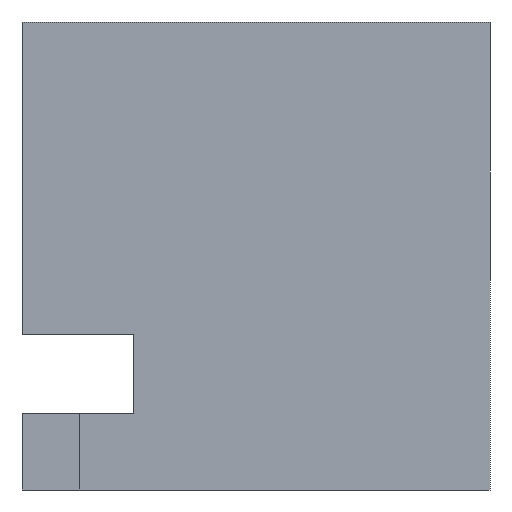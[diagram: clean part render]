
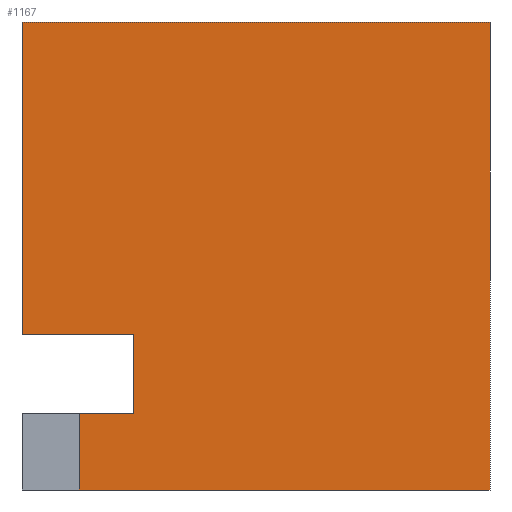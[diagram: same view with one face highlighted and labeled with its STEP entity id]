
A CAD part, front view. The second image highlights one B-rep face of the part: STEP entity #1167.
In plain terms, the highlighted planar face has unit normal (0, -1, 0).
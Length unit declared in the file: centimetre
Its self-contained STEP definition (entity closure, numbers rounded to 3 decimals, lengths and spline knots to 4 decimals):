
#2 = VECTOR ( 'NONE', #983, 100. ) ;
#5 = VECTOR ( 'NONE', #117, 100. ) ;
#73 = CARTESIAN_POINT ( 'NONE',  ( 238.0093, 0., 164.0177 ) ) ;
#98 = ORIENTED_EDGE ( 'NONE', *, *, #971, .T. ) ;
#117 = DIRECTION ( 'NONE',  ( 0., 0., -1. ) ) ;
#129 = ORIENTED_EDGE ( 'NONE', *, *, #932, .T. ) ;
#154 = DIRECTION ( 'NONE',  ( 0., 0., 1. ) ) ;
#166 = DIRECTION ( 'NONE',  ( 0., 0., -1. ) ) ;
#207 = LINE ( 'NONE', #573, #1066 ) ;
#245 = VERTEX_POINT ( 'NONE', #1159 ) ;
#273 = EDGE_CURVE ( 'NONE', #1172, #885, #728, .T. ) ;
#283 = DIRECTION ( 'NONE',  ( -1., 0., 0. ) ) ;
#329 = EDGE_CURVE ( 'NONE', #1081, #942, #553, .T. ) ;
#372 = CARTESIAN_POINT ( 'NONE',  ( 0., 0., 164.0177 ) ) ;
#379 = CARTESIAN_POINT ( 'NONE',  ( 0., 0., 1000. ) ) ;
#395 = CARTESIAN_POINT ( 'NONE',  ( 0., 0., 1000. ) ) ;
#401 = VERTEX_POINT ( 'NONE', #1193 ) ;
#413 = ORIENTED_EDGE ( 'NONE', *, *, #516, .T. ) ;
#452 = CARTESIAN_POINT ( 'NONE',  ( 121.9611, 0., 0. ) ) ;
#454 = DIRECTION ( 'NONE',  ( 1., 0., 0. ) ) ;
#455 = EDGE_CURVE ( 'NONE', #1081, #1050, #1031, .T. ) ;
#516 = EDGE_CURVE ( 'NONE', #1172, #936, #207, .T. ) ;
#519 = ORIENTED_EDGE ( 'NONE', *, *, #455, .T. ) ;
#539 = ORIENTED_EDGE ( 'NONE', *, *, #851, .F. ) ;
#553 = LINE ( 'NONE', #379, #747 ) ;
#558 = CARTESIAN_POINT ( 'NONE',  ( 0., 0., 1000. ) ) ;
#563 = DIRECTION ( 'NONE',  ( 1., 0., 0. ) ) ;
#573 = CARTESIAN_POINT ( 'NONE',  ( 0., 0., 0. ) ) ;
#602 = AXIS2_PLACEMENT_3D ( 'NONE', #670, #1033, #154 ) ;
#616 = CARTESIAN_POINT ( 'NONE',  ( 121.9611, 0., 0. ) ) ;
#649 = VECTOR ( 'NONE', #283, 100. ) ;
#652 = LINE ( 'NONE', #73, #708 ) ;
#670 = CARTESIAN_POINT ( 'NONE',  ( 0., 0., 1000. ) ) ;
#708 = VECTOR ( 'NONE', #909, 100. ) ;
#728 = LINE ( 'NONE', #616, #2 ) ;
#742 = CARTESIAN_POINT ( 'NONE',  ( 0., 0., 333.2478 ) ) ;
#746 = CARTESIAN_POINT ( 'NONE',  ( 1000., 0., 1000. ) ) ;
#747 = VECTOR ( 'NONE', #563, 100. ) ;
#817 = CARTESIAN_POINT ( 'NONE',  ( 121.9611, 0., 164.0177 ) ) ;
#844 = PLANE ( 'NONE',  #602 ) ;
#851 = EDGE_CURVE ( 'NONE', #942, #936, #925, .T. ) ;
#885 = VERTEX_POINT ( 'NONE', #817 ) ;
#907 = EDGE_CURVE ( 'NONE', #1050, #245, #922, .T. ) ;
#909 = DIRECTION ( 'NONE',  ( 0., 0., -1. ) ) ;
#922 = LINE ( 'NONE', #742, #1164 ) ;
#925 = LINE ( 'NONE', #1094, #1067 ) ;
#932 = EDGE_CURVE ( 'NONE', #401, #885, #1000, .T. ) ;
#936 = VERTEX_POINT ( 'NONE', #1190 ) ;
#942 = VERTEX_POINT ( 'NONE', #746 ) ;
#970 = ORIENTED_EDGE ( 'NONE', *, *, #273, .F. ) ;
#971 = EDGE_CURVE ( 'NONE', #245, #401, #652, .T. ) ;
#983 = DIRECTION ( 'NONE',  ( 0., 0., 1. ) ) ;
#1000 = LINE ( 'NONE', #372, #649 ) ;
#1021 = CARTESIAN_POINT ( 'NONE',  ( 0., 0., 333.2478 ) ) ;
#1028 = FACE_OUTER_BOUND ( 'NONE', #1070, .T. ) ;
#1031 = LINE ( 'NONE', #395, #5 ) ;
#1033 = DIRECTION ( 'NONE',  ( 0., 1., 0. ) ) ;
#1050 = VERTEX_POINT ( 'NONE', #1021 ) ;
#1066 = VECTOR ( 'NONE', #1148, 100. ) ;
#1067 = VECTOR ( 'NONE', #166, 100. ) ;
#1070 = EDGE_LOOP ( 'NONE', ( #129, #970, #413, #539, #1139, #519, #1153, #98 ) ) ;
#1081 = VERTEX_POINT ( 'NONE', #558 ) ;
#1094 = CARTESIAN_POINT ( 'NONE',  ( 1000., 0., 1000. ) ) ;
#1139 = ORIENTED_EDGE ( 'NONE', *, *, #329, .F. ) ;
#1148 = DIRECTION ( 'NONE',  ( 1., 0., 0. ) ) ;
#1153 = ORIENTED_EDGE ( 'NONE', *, *, #907, .T. ) ;
#1159 = CARTESIAN_POINT ( 'NONE',  ( 238.0093, 0., 333.2478 ) ) ;
#1164 = VECTOR ( 'NONE', #454, 100. ) ;
#1167 = ADVANCED_FACE ( 'NONE', ( #1028 ), #844, .F. ) ;
#1172 = VERTEX_POINT ( 'NONE', #452 ) ;
#1190 = CARTESIAN_POINT ( 'NONE',  ( 1000., 0., 0. ) ) ;
#1193 = CARTESIAN_POINT ( 'NONE',  ( 238.0093, 0., 164.0177 ) ) ;
